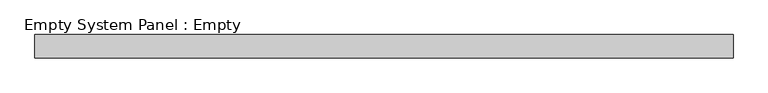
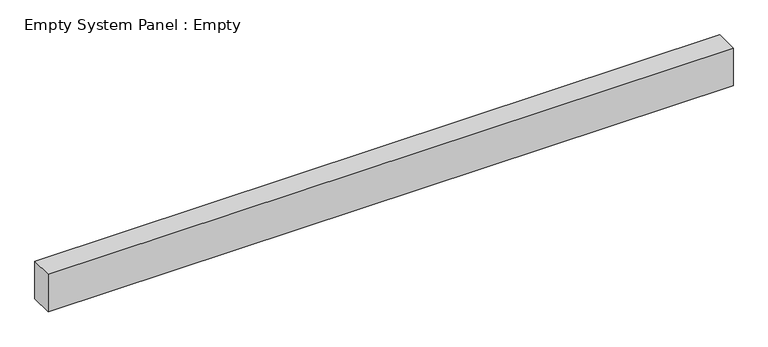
"""IFC4 building model written with IfcOpenShell, lengths in millimetres: plate geometry, Empty System Panel : Empty."""

from ifc_helpers import new_model, si_unit, origin, origin_with_axes, place, context, project, spatial, polyline, outline, extrude, source, transform, mapped, element, save


def empty_system_panel_empty_aee84036(model_context):
    return source(origin(), model_context, "Body", "SweptSolid", [
        extrude(outline(polyline([(1500.0, -50.0), (-1500.0, -50.0), (-1500.0, 50.0), (1500.0, 50.0), (1500.0, -50.0)])), origin_with_axes(), (0.0, 0.0, 1.0), 173.8370491),
    ])


if __name__ == "__main__":
    model = new_model("IFC4")
    model_context = context("Model", 3, world=origin())
    ifc_project = project(units=[si_unit("LENGTHUNIT", "METRE", prefix="MILLI")], contexts=[model_context])
    site = spatial("IfcSite", under=ifc_project)
    building = spatial("IfcBuilding", under=site)
    placement = place(None, origin())
    empty_system_panel_empty_shape = empty_system_panel_empty_aee84036(model_context)
    element("IfcPlate", 1, ObjectType="Empty System Panel : Empty", at=placement, inside=building, context=model_context, shape_type="MappedRepresentation", body=[
        mapped(empty_system_panel_empty_shape, transform((0.0, 0.0, 0.0), x_axis=(1.0, 0.0, 0.0), y_axis=(0.0, 1.0, 0.0), z_axis=(0.0, 0.0, 1.0))),
    ])
    save(model, "model.ifc")
